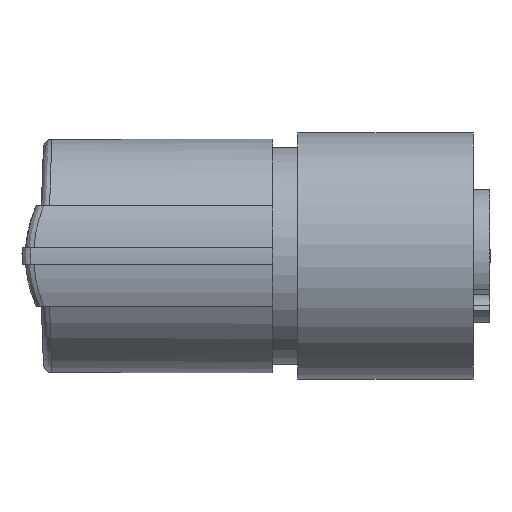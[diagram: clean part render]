
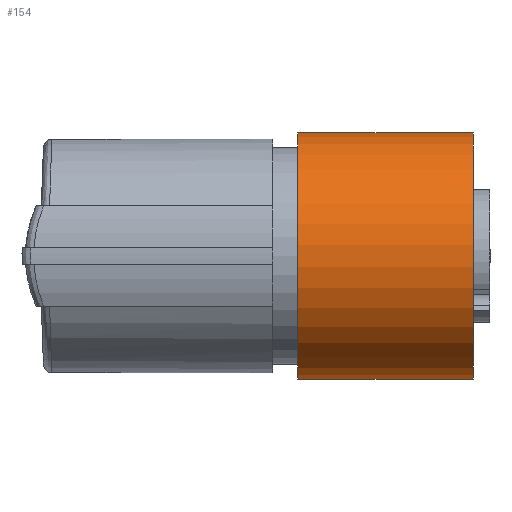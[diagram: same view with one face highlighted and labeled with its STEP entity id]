
A CAD part, left-side view. The second image highlights one B-rep face of the part: STEP entity #154.
In plain terms, the highlighted cylindrical face has radius 7.4 mm (diameter 14.8 mm), a full revolution.
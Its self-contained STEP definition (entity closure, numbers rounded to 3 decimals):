
#154 = ADVANCED_FACE( '', ( #384, #385 ), #386, .T. );
#384 = FACE_OUTER_BOUND( '', #809, .T. );
#385 = FACE_OUTER_BOUND( '', #810, .T. );
#386 = CYLINDRICAL_SURFACE( '', #811, 7.4 );
#809 = EDGE_LOOP( '', ( #1848 ) );
#810 = EDGE_LOOP( '', ( #1849 ) );
#811 = AXIS2_PLACEMENT_3D( '', #1850, #1851, #1852 );
#1848 = ORIENTED_EDGE( '', *, *, #2463, .F. );
#1849 = ORIENTED_EDGE( '', *, *, #2519, .T. );
#1850 = CARTESIAN_POINT( '', ( 15.54, 5., 31.751 ) );
#1851 = DIRECTION( '', ( 0., 1., 0. ) );
#1852 = DIRECTION( '', ( 0.707, 0., -0.707 ) );
#2463 = EDGE_CURVE( '', #2769, #2769, #2770, .T. );
#2519 = EDGE_CURVE( '', #2867, #2867, #2868, .T. );
#2769 = VERTEX_POINT( '', #3270 );
#2770 = CIRCLE( '', #3271, 7.4 );
#2867 = VERTEX_POINT( '', #4275 );
#2868 = CIRCLE( '', #4276, 7.4 );
#3270 = CARTESIAN_POINT( '', ( 20.772, -0.5, 26.518 ) );
#3271 = AXIS2_PLACEMENT_3D( '', #5724, #5725, #5726 );
#4275 = CARTESIAN_POINT( '', ( 20.772, 10., 26.518 ) );
#4276 = AXIS2_PLACEMENT_3D( '', #5788, #5789, #5790 );
#5724 = CARTESIAN_POINT( '', ( 15.54, -0.5, 31.751 ) );
#5725 = DIRECTION( '', ( 0., -1., 0. ) );
#5726 = DIRECTION( '', ( 0.707, 0., -0.707 ) );
#5788 = CARTESIAN_POINT( '', ( 15.54, 10., 31.751 ) );
#5789 = DIRECTION( '', ( 0., -1., 0. ) );
#5790 = DIRECTION( '', ( 0.707, 0., -0.707 ) );
